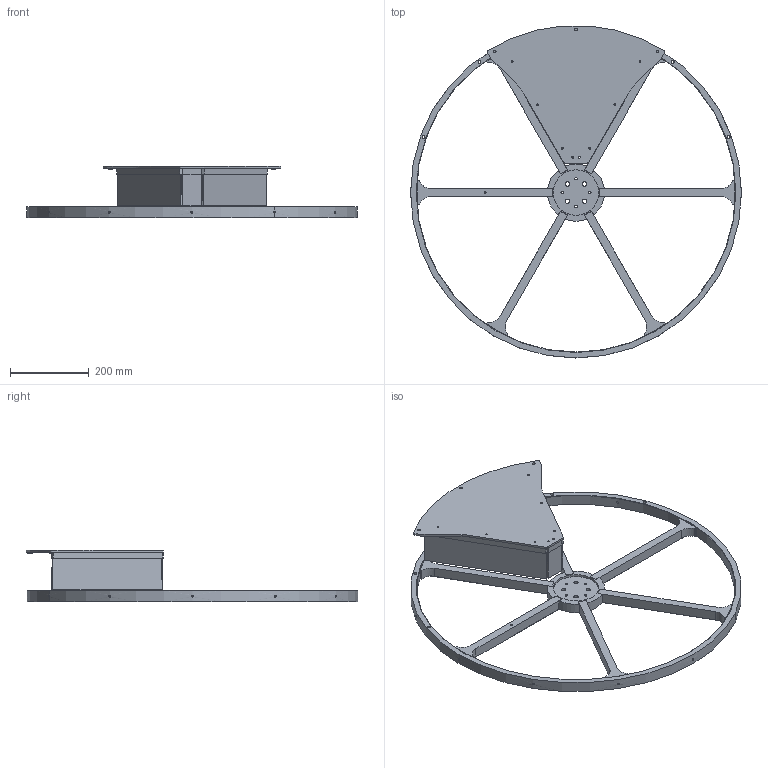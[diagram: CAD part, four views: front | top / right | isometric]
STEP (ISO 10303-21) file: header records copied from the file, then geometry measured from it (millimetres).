
FILE_DESCRIPTION (( 'STEP AP214' ), '1' );
FILE_NAME ('GM000538.STEP', '2021-09-17T08:21:55', ( '' ), ( '' ), 'SwSTEP 2.0', 'SolidWorks 2020', '' );
FILE_SCHEMA (( 'AUTOMOTIVE_DESIGN' ));
Length unit declared in the file: millimetre
Products named in the file (9): SM000075; SM000071; PD001762; PD002369; CM000064; PD001094; GM000538; PD002130; PD002129
Assembly tree (18 placements, depth 2):
  GM000538
    CM000064  x6
    PD002130
    PD002129
    PD001094
    SM000071
    PD001762  x5
    PD002369
    SM000075  x2
Bounding box: 840 x 842.89 x 130.02 mm (x, y, z)
Volume: 3274833 mm3; surface area: 840289.5 mm2
Topology: 18 solids, 18 shells, 555 faces, 1483 edges, 988 vertices
Faces by surface type: plane 297, cylinder 256, cone 2
Entity records: 13079 total; most frequent: CARTESIAN_POINT 2809, DIRECTION 2095, ORIENTED_EDGE 1970, EDGE_CURVE 985, AXIS2_PLACEMENT_3D 758, VERTEX_POINT 656, VECTOR 579, LINE 579
